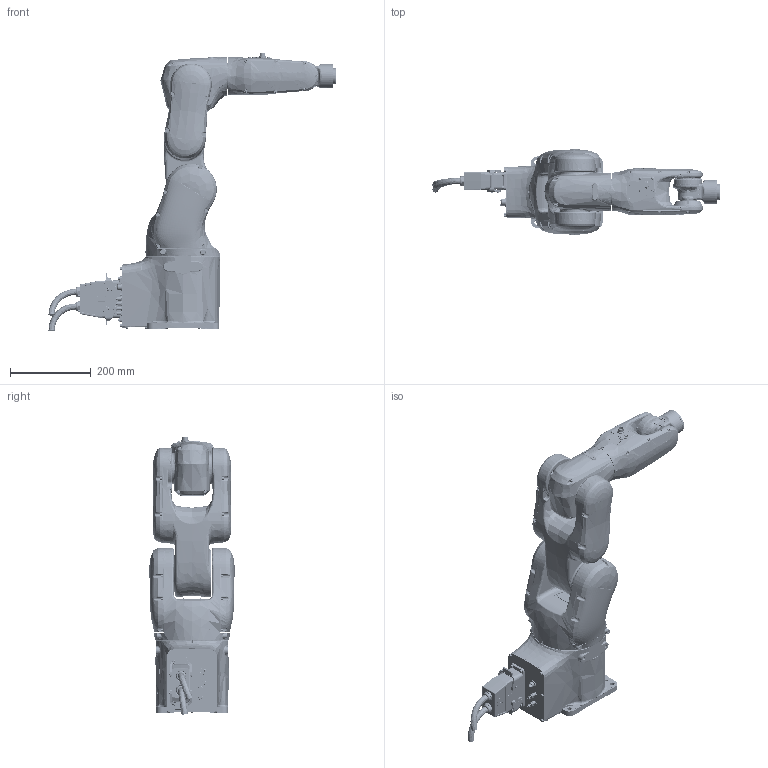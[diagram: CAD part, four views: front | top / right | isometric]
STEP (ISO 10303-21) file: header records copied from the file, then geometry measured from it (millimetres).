
FILE_DESCRIPTION (( 'STEP AP214' ), '1' );
FILE_NAME ('LR4-R560ÓÐlogo.STEP', '2024-05-23T08:19:06', ( '' ), ( '' ), 'SwSTEP 2.0', 'SolidWorks 2017', '' );
FILE_SCHEMA (( 'AUTOMOTIVE_DESIGN' ));
Length unit declared in the file: millimetre
Products named in the file (9): ﾄｩｶﾋｷｨﾀｼ^LR4-R560ﾓﾐlogo2017; ´ó±Û^LR4-R560ÓÐlogo2017; ×ª×ù^LR4-R560ÓÐlogo2017; ﾊﾖﾍｬｽﾓﾌ薛OGO^LR4-R560ﾓﾐlogo2017; µç»ú×ù^LR4-R560ÓÐlogo2017; LR4-R560ÓÐlogo; ｸｴｼ ﾖﾘﾔﾘｽﾓﾍｷ^LR4-R560ﾓﾐlogo2017; µ××ù^LR4-R560ÓÐlogo2017; ﾊﾖﾍ蘓LR4-R560ﾓﾐlogo2017
Assembly tree (8 placements, depth 2):
  LR4-R560ÓÐlogo
    µ××ù^LR4-R560ÓÐlogo2017
    ×ª×ù^LR4-R560ÓÐlogo2017
    ´ó±Û^LR4-R560ÓÐlogo2017
    µç»ú×ù^LR4-R560ÓÐlogo2017
    ﾊﾖﾍｬｽﾓﾌ薛OGO^LR4-R560ﾓﾐlogo2017
    ﾊﾖﾍ蘓LR4-R560ﾓﾐlogo2017
    ﾄｩｶﾋｷｨﾀｼ^LR4-R560ﾓﾐlogo2017
    ｸｴｼ ﾖﾘﾔﾘｽﾓﾍｷ^LR4-R560ﾓﾐlogo2017
Bounding box: 710.95 x 210.96 x 687.96 mm (x, y, z)
Volume: 17023982.5 mm3; surface area: 1027470.1 mm2
Topology: 26 solids, 40 shells, 5705 faces, 14623 edges, 9259 vertices
Faces by surface type: plane 2033, bspline 1929, cylinder 1196, cone 526, torus 21
Full cylindrical faces by diameter (mm): 38 x1
Entity records: 440499 total; most frequent: CARTESIAN_POINT 306557, ORIENTED_EDGE 28988, DIRECTION 18924, EDGE_CURVE 14523, VERTEX_POINT 9256, AXIS2_PLACEMENT_3D 6772, EDGE_LOOP 6137, ADVANCED_FACE 5705
